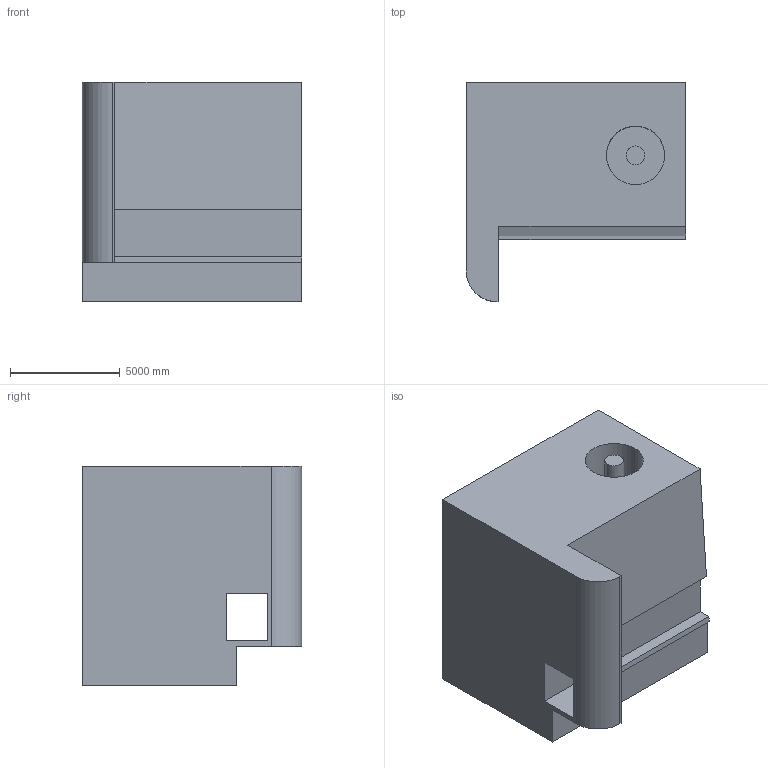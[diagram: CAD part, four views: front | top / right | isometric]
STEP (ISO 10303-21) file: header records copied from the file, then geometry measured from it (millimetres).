
FILE_DESCRIPTION (( 'STEP AP203' ), '1' );
FILE_NAME ('1586.STEP', '2022-08-18T15:58:37', ( 'user' ), ( '' ), 'SwSTEP 2.0', 'SolidWorks 2021', '' );
FILE_SCHEMA (( 'CONFIG_CONTROL_DESIGN' ));
Length unit declared in the file: centimetre
Products named in the file (1): 1586
Bounding box: 10000 x 10000 x 10000 mm (x, y, z)
Volume: 654535470325.9 mm3; surface area: 654114674.4 mm2
Topology: 1 solids, 1 shells, 33 faces, 93 edges, 62 vertices
Faces by surface type: plane 28, cylinder 5
Entity records: 1142 total; most frequent: CARTESIAN_POINT 228, ORIENTED_EDGE 186, DIRECTION 158, EDGE_CURVE 93, VECTOR 70, LINE 70, VERTEX_POINT 62, AXIS2_PLACEMENT_3D 44
